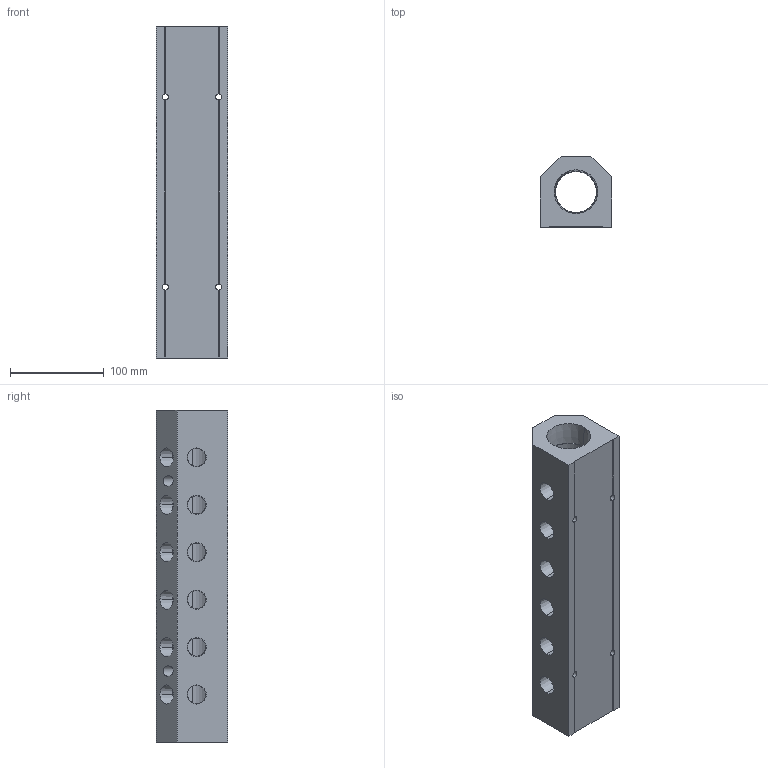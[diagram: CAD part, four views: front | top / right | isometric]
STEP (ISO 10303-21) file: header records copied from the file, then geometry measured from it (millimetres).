
FILE_DESCRIPTION (( 'STEP AP214' ), '1' );
FILE_NAME ('ALM6AB-N8N24-355B.step', '2022-02-07T09:29:15', ( '' ), ( '' ), 'SwSTEP 2.0', 'SolidWorks 2020', '' );
FILE_SCHEMA (( 'AUTOMOTIVE_DESIGN' ));
Length unit declared in the file: millimetre
Products named in the file (1): ALM6AB-N8N24-355B
Bounding box: 76.2 x 76.2 x 355 mm (x, y, z)
Volume: 1256125.2 mm3; surface area: 166807.2 mm2
Topology: 1 solids, 1 shells, 339 faces, 916 edges, 608 vertices
Faces by surface type: plane 209, bspline 84, cone 28, cylinder 18
Entity records: 19730 total; most frequent: CARTESIAN_POINT 8566, ORIENTED_EDGE 1832, DIRECTION 1268, EDGE_CURVE 916, VECTOR 636, LINE 636, VERTEX_POINT 608, EDGE_LOOP 402
